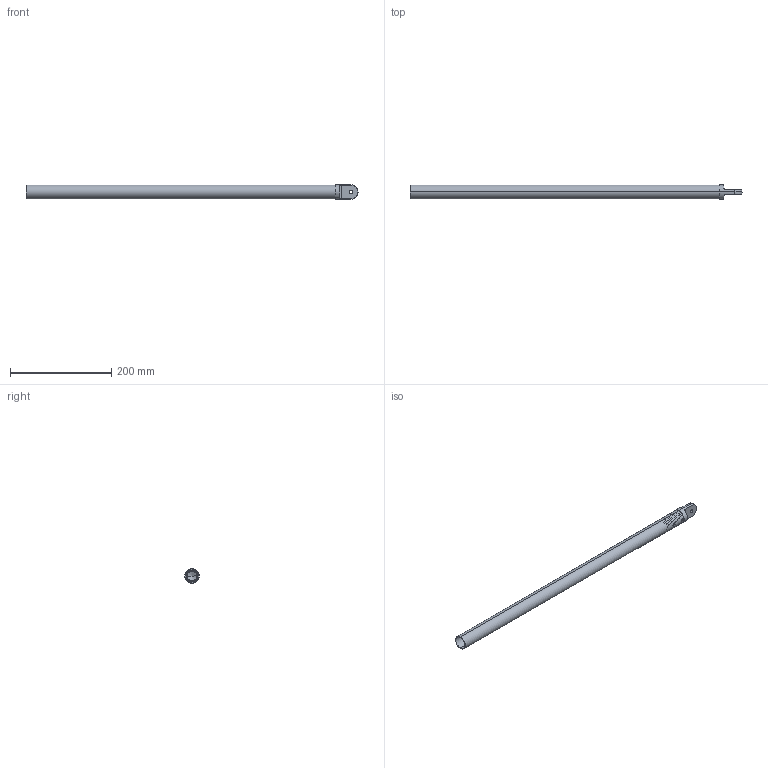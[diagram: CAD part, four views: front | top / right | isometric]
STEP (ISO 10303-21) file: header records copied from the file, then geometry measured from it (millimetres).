
FILE_DESCRIPTION (( 'STEP AP214' ), '1' );
FILE_NAME ('Male Clevis Connector.STEP', '2013-08-19T13:01:40', ( 'ydmin' ), ( 'Microsoft' ), 'SwSTEP 2.0', 'SolidWorks 2013', '' );
FILE_SCHEMA (( 'AUTOMOTIVE_DESIGN' ));
Length unit declared in the file: inch
Products named in the file (3): DRP-002-0509-00_MALE YOKE TUBE INSERT; 6.000 Inch Tube; Male Clevis Connector
Assembly tree (2 placements, depth 2):
  Male Clevis Connector
    6.000 Inch Tube
    DRP-002-0509-00_MALE YOKE TUBE INSERT
Bounding box: 654.77 x 28.57 x 28.57 mm (x, y, z)
Volume: 72813.7 mm3; surface area: 114003.6 mm2
Topology: 2 solids, 2 shells, 231 faces, 678 edges, 450 vertices
Faces by surface type: cylinder 110, plane 109, torus 8, cone 2, sphere 2
Entity records: 7972 total; most frequent: CARTESIAN_POINT 1486, DIRECTION 1386, ORIENTED_EDGE 1352, EDGE_CURVE 676, AXIS2_PLACEMENT_3D 490, VERTEX_POINT 450, VECTOR 406, LINE 406
